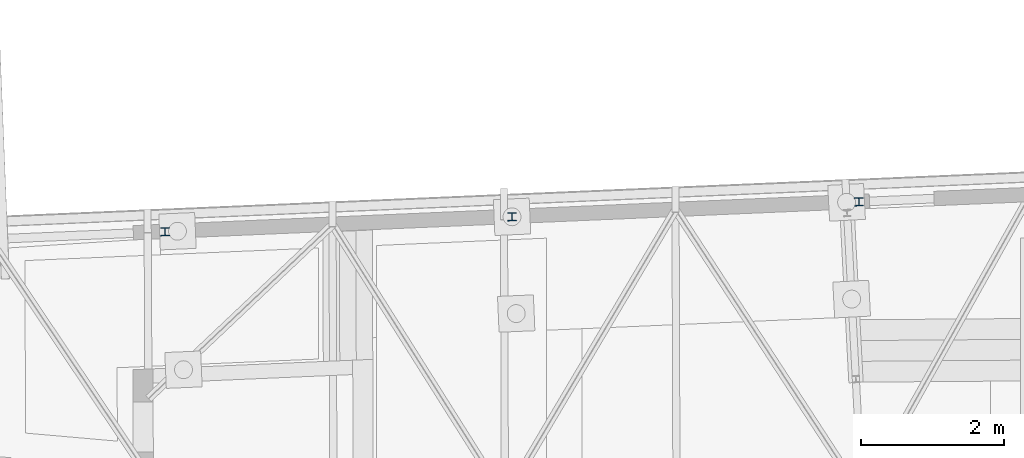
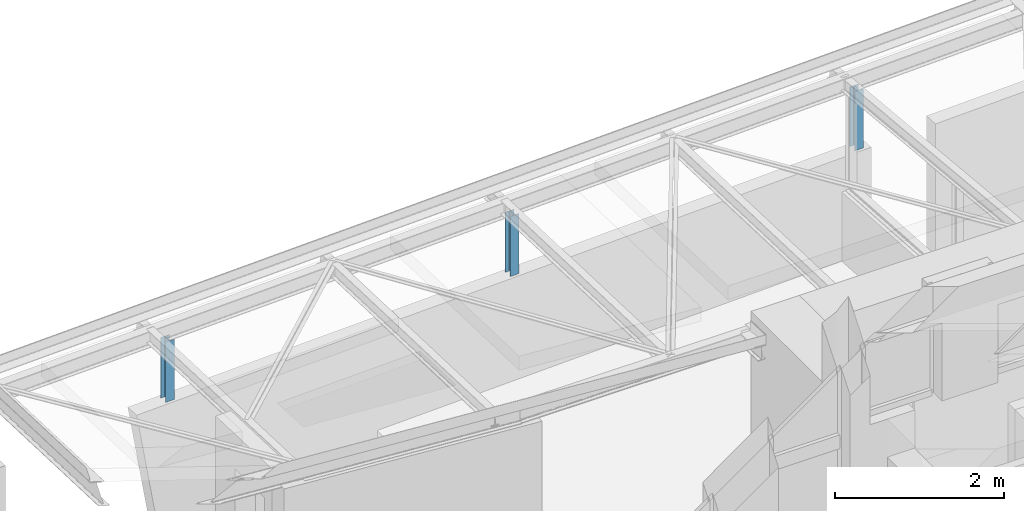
# One storey, part 5 of 128: 3 columns.
"""IFC2X3 building model written with IfcOpenShell, lengths in metres."""

from ifc_helpers import new_model, entity, si_unit, converted_unit, derived_unit, direction, frame, frame_2d, origin, place, context, subcontext, project, spatial, i_section, extrude, source, transform, mapped, material, type_object, type_shapes, element, save


model = new_model("IFC2X3")

# Units and contexts
model_context = context("Model", 3, precision=1e-05, world=origin(), true_north=direction((6.123031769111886e-17, 1.0)))
body_context = subcontext(model_context, "Body", "Model", "MODEL_VIEW")
ifc_project = project(units=[si_unit("LENGTHUNIT", "METRE"), si_unit("AREAUNIT", "SQUARE_METRE"), converted_unit("PLANEANGLEUNIT", "DEGREE", entity("IfcPlaneAngleMeasure", 0.017453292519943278), si_unit("PLANEANGLEUNIT", "RADIAN"), dimensions=[0, 0, 0, 0, 0, 0, 0]), derived_unit("THERMALTRANSMITTANCEUNIT", [(si_unit("MASSUNIT", "GRAM", prefix="KILO"), 1), (si_unit("THERMODYNAMICTEMPERATUREUNIT", "KELVIN"), -1), (si_unit("TIMEUNIT", "SECOND"), -3)])], contexts=[model_context])

# Site, building, storey
site_placement = place(None, origin())
site = spatial("IfcSite", under=ifc_project, at=site_placement, Name="Default", CompositionType="ELEMENT")
building_placement = place(site_placement, origin())
building = spatial("IfcBuilding", under=site, at=building_placement, CompositionType="ELEMENT")
storey_placement = place(building_placement, origin())
storey = spatial("IfcBuildingStorey", under=building, at=storey_placement, Name="00_RDC CAF", CompositionType="ELEMENT", Elevation=2.4982504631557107e-13)

# Columns
ifc_material = material(Name="Acier structurel - S235")
column_type_1 = type_object("IfcColumnType", Name="Poteau HE-A:HEA120", PredefinedType="COLUMN", material=ifc_material)
shared_shape_1 = source(origin(), body_context, "Body", "SweptSolid", [
    extrude(i_section(OverallWidth=0.12000000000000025, OverallDepth=0.11399999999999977, WebThickness=0.005000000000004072, FlangeThickness=0.008000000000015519, FilletRadius=0.012, at=frame_2d((-2.8727020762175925e-15, 8.795048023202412e-15), x_axis=(1.0, 0.0))), frame((19.020468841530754, 150.42939400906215, 1.49000000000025), z_axis=(0.0, 0.0, 1.0), x_axis=(0.9990706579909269, 0.04310244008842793, 0.0)), (0.0, 0.0, 1.0), 0.8731832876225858),
])
type_shapes(column_type_1, [shared_shape_1])
column_1_placement = place(storey_placement, origin())
element("IfcColumn", 1, at=column_1_placement, inside=storey, type_object=column_type_1, material=ifc_material, Name="Poteau HE-A:HEA120", ObjectType="Poteau HE-A:HEA120", context=body_context, shape_type="MappedRepresentation", body=[
    mapped(shared_shape_1, transform((0.0, 0.0, 0.0), scale=1.0)),
])
column_type_2 = type_object("IfcColumnType", Name="Poteau HE-A:HEA120", PredefinedType="COLUMN", material=ifc_material)
shared_shape_2 = source(origin(), body_context, "Body", "SweptSolid", [
    extrude(i_section(OverallWidth=0.11999999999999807, OverallDepth=0.1139999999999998, WebThickness=0.005000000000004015, FlangeThickness=0.008000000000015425, FilletRadius=0.012, at=frame_2d((-3.712308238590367e-16, -8.656270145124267e-15), x_axis=(1.0, 0.0))), frame((28.692342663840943, 150.84666315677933, 1.49000000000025), z_axis=(0.0, 0.0, 1.0), x_axis=(0.9990706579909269, 0.04310244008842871, 0.0)), (0.0, 0.0, 1.0), 0.8602541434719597),
])
type_shapes(column_type_2, [shared_shape_2])
column_2_placement = place(storey_placement, origin())
element("IfcColumn", 2, at=column_2_placement, inside=storey, type_object=column_type_2, material=ifc_material, Name="Poteau HE-A:HEA120", ObjectType="Poteau HE-A:HEA120", context=body_context, shape_type="MappedRepresentation", body=[
    mapped(shared_shape_2, transform((0.0, 0.0, 0.0), scale=1.0)),
])
column_type_3 = type_object("IfcColumnType", Name="Poteau HE-A:HEA120", PredefinedType="COLUMN", material=ifc_material)
shared_shape_3 = source(origin(), body_context, "Body", "SweptSolid", [
    extrude(i_section(OverallWidth=0.11999999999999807, OverallDepth=0.1139999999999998, WebThickness=0.005000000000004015, FlangeThickness=0.008000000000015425, FilletRadius=0.012, at=frame_2d((-4.697631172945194e-15, -8.465450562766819e-15), x_axis=(1.0, 0.0))), frame((23.856840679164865, 150.63804734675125, 1.49000000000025), z_axis=(0.0, 0.0, 1.0), x_axis=(0.9990706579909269, 0.04310244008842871, 0.0)), (0.0, 0.0, 1.0), 0.8667181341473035),
])
type_shapes(column_type_3, [shared_shape_3])
column_3_placement = place(storey_placement, origin())
element("IfcColumn", 3, at=column_3_placement, inside=storey, type_object=column_type_3, material=ifc_material, Name="Poteau HE-A:HEA120", ObjectType="Poteau HE-A:HEA120", context=body_context, shape_type="MappedRepresentation", body=[
    mapped(shared_shape_3, transform((0.0, 0.0, 0.0), scale=1.0)),
])

save(model, "model.ifc")
